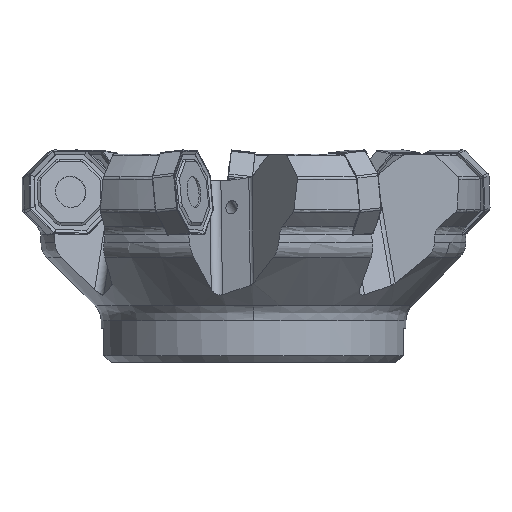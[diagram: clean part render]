
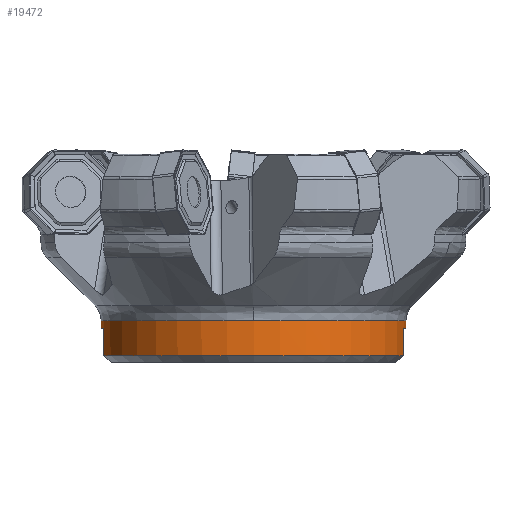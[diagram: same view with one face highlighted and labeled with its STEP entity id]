
A CAD part, front view. The second image highlights one B-rep face of the part: STEP entity #19472.
In plain terms, the highlighted cylindrical face has radius 36.5 mm (diameter 73 mm), a partial arc.
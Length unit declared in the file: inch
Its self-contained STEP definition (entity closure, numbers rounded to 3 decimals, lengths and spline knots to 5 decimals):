
#403 = VERTEX_POINT ( 'NONE', #12399 ) ;
#665 = EDGE_CURVE ( 'NONE', #5692, #24043, #22095, .T. ) ;
#1453 = CARTESIAN_POINT ( 'NONE',  ( 0., 0., 2. ) ) ;
#1514 = DIRECTION ( 'NONE',  ( 0., 0., -1. ) ) ;
#1619 = VECTOR ( 'NONE', #25922, 39.37008 ) ;
#1693 = VERTEX_POINT ( 'NONE', #15487 ) ;
#2259 = AXIS2_PLACEMENT_3D ( 'NONE', #20545, #9960, #15943 ) ;
#2682 = VERTEX_POINT ( 'NONE', #15356 ) ;
#2719 = CARTESIAN_POINT ( 'NONE',  ( 1.41422, -0.25492, 2. ) ) ;
#3112 = AXIS2_PLACEMENT_3D ( 'NONE', #17102, #21829, #8745 ) ;
#3393 = CARTESIAN_POINT ( 'NONE',  ( 0., 0., 0.39079 ) ) ;
#3573 = CARTESIAN_POINT ( 'NONE',  ( -1.43701, 0., 2. ) ) ;
#3993 = CIRCLE ( 'NONE', #25809, 1.43701 ) ;
#4245 = CARTESIAN_POINT ( 'NONE',  ( 0., -1.43701, 0.39079 ) ) ;
#4923 = ORIENTED_EDGE ( 'NONE', *, *, #11727, .T. ) ;
#5677 = AXIS2_PLACEMENT_3D ( 'NONE', #1453, #14256, #12162 ) ;
#5692 = VERTEX_POINT ( 'NONE', #13850 ) ;
#5815 = LINE ( 'NONE', #3573, #18433 ) ;
#6112 = ORIENTED_EDGE ( 'NONE', *, *, #665, .T. ) ;
#6641 = EDGE_CURVE ( 'NONE', #1693, #23395, #21799, .T. ) ;
#7273 = VECTOR ( 'NONE', #17220, 39.37008 ) ;
#7717 = DIRECTION ( 'NONE',  ( 0., -1., 0. ) ) ;
#8073 = EDGE_CURVE ( 'NONE', #403, #17376, #3993, .T. ) ;
#8325 = CARTESIAN_POINT ( 'NONE',  ( 1.43701, 0., 2. ) ) ;
#8725 = LINE ( 'NONE', #8325, #7273 ) ;
#8745 = DIRECTION ( 'NONE',  ( 1., 0., 0. ) ) ;
#9056 = LINE ( 'NONE', #17410, #1619 ) ;
#9064 = EDGE_LOOP ( 'NONE', ( #11714, #20298, #26689, #22086, #22374, #18694, #4923, #6112, #19176 ) ) ;
#9125 = VECTOR ( 'NONE', #19699, 39.37008 ) ;
#9309 = CARTESIAN_POINT ( 'NONE',  ( 0., 0., 0.31878 ) ) ;
#9442 = DIRECTION ( 'NONE',  ( 1., 0., 0. ) ) ;
#9960 = DIRECTION ( 'NONE',  ( 0., 0., 1. ) ) ;
#10951 = VERTEX_POINT ( 'NONE', #20555 ) ;
#11284 = CIRCLE ( 'NONE', #11729, 1.43701 ) ;
#11714 = ORIENTED_EDGE ( 'NONE', *, *, #14280, .F. ) ;
#11727 = EDGE_CURVE ( 'NONE', #17376, #5692, #8725, .T. ) ;
#11729 = AXIS2_PLACEMENT_3D ( 'NONE', #3393, #20238, #7717 ) ;
#12162 = DIRECTION ( 'NONE',  ( 1., 0., 0. ) ) ;
#12399 = CARTESIAN_POINT ( 'NONE',  ( 1.41422, -0.25492, 0.31878 ) ) ;
#12446 = CYLINDRICAL_SURFACE ( 'NONE', #5677, 1.43701 ) ;
#12590 = CARTESIAN_POINT ( 'NONE',  ( 1.43701, 0., 0.31878 ) ) ;
#12666 = VERTEX_POINT ( 'NONE', #24223 ) ;
#13308 = LINE ( 'NONE', #2719, #9125 ) ;
#13524 = EDGE_CURVE ( 'NONE', #24043, #12666, #11284, .T. ) ;
#13850 = CARTESIAN_POINT ( 'NONE',  ( 1.43701, 0., 0.39079 ) ) ;
#14256 = DIRECTION ( 'NONE',  ( 0., 0., 1. ) ) ;
#14280 = EDGE_CURVE ( 'NONE', #10951, #12666, #5815, .T. ) ;
#14318 = DIRECTION ( 'NONE',  ( 0., -1., 0. ) ) ;
#14426 = DIRECTION ( 'NONE',  ( 0., 0., 1. ) ) ;
#15356 = CARTESIAN_POINT ( 'NONE',  ( -1.41422, -0.25492, 0.31878 ) ) ;
#15487 = CARTESIAN_POINT ( 'NONE',  ( -1.41422, -0.25492, 0.05894 ) ) ;
#15943 = DIRECTION ( 'NONE',  ( 1., 0., 0. ) ) ;
#16340 = FACE_OUTER_BOUND ( 'NONE', #9064, .T. ) ;
#17082 = EDGE_CURVE ( 'NONE', #23395, #403, #13308, .T. ) ;
#17102 = CARTESIAN_POINT ( 'NONE',  ( 0., 0., 0.05894 ) ) ;
#17220 = DIRECTION ( 'NONE',  ( 0., 0., 1. ) ) ;
#17376 = VERTEX_POINT ( 'NONE', #12590 ) ;
#17410 = CARTESIAN_POINT ( 'NONE',  ( -1.41422, -0.25492, 2. ) ) ;
#17770 = EDGE_CURVE ( 'NONE', #2682, #1693, #9056, .T. ) ;
#18433 = VECTOR ( 'NONE', #14426, 39.37008 ) ;
#18694 = ORIENTED_EDGE ( 'NONE', *, *, #8073, .T. ) ;
#19176 = ORIENTED_EDGE ( 'NONE', *, *, #13524, .T. ) ;
#19472 = ADVANCED_FACE ( 'NONE', ( #16340 ), #12446, .T. ) ;
#19699 = DIRECTION ( 'NONE',  ( 0., 0., 1. ) ) ;
#20238 = DIRECTION ( 'NONE',  ( 0., 0., -1. ) ) ;
#20298 = ORIENTED_EDGE ( 'NONE', *, *, #25137, .T. ) ;
#20545 = CARTESIAN_POINT ( 'NONE',  ( 0., 0., 0.31878 ) ) ;
#20555 = CARTESIAN_POINT ( 'NONE',  ( -1.43701, 0., 0.31878 ) ) ;
#21799 = CIRCLE ( 'NONE', #3112, 1.43701 ) ;
#21829 = DIRECTION ( 'NONE',  ( 0., 0., 1. ) ) ;
#22086 = ORIENTED_EDGE ( 'NONE', *, *, #6641, .T. ) ;
#22095 = CIRCLE ( 'NONE', #23006, 1.43701 ) ;
#22374 = ORIENTED_EDGE ( 'NONE', *, *, #17082, .T. ) ;
#22547 = CARTESIAN_POINT ( 'NONE',  ( 0., 0., 0.39079 ) ) ;
#23006 = AXIS2_PLACEMENT_3D ( 'NONE', #22547, #1514, #14318 ) ;
#23395 = VERTEX_POINT ( 'NONE', #23802 ) ;
#23802 = CARTESIAN_POINT ( 'NONE',  ( 1.41422, -0.25492, 0.05894 ) ) ;
#24043 = VERTEX_POINT ( 'NONE', #4245 ) ;
#24223 = CARTESIAN_POINT ( 'NONE',  ( -1.43701, 0., 0.39079 ) ) ;
#24497 = CIRCLE ( 'NONE', #2259, 1.43701 ) ;
#25137 = EDGE_CURVE ( 'NONE', #10951, #2682, #24497, .T. ) ;
#25809 = AXIS2_PLACEMENT_3D ( 'NONE', #9309, #26440, #9442 ) ;
#25922 = DIRECTION ( 'NONE',  ( 0., 0., -1. ) ) ;
#26440 = DIRECTION ( 'NONE',  ( 0., 0., 1. ) ) ;
#26689 = ORIENTED_EDGE ( 'NONE', *, *, #17770, .T. ) ;
